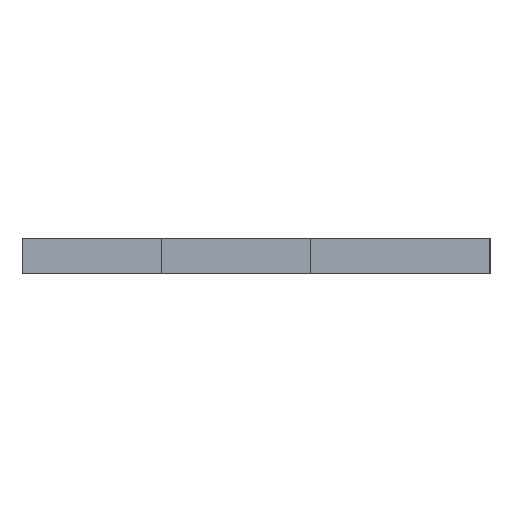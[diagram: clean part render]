
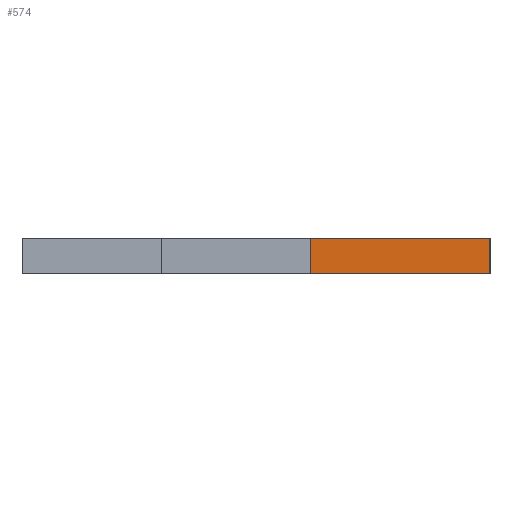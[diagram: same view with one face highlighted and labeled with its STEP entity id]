
A CAD part, left-side view. The second image highlights one B-rep face of the part: STEP entity #574.
In plain terms, the highlighted planar face has unit normal (-1, 0, 0).
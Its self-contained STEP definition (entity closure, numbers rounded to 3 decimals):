
#56 = CARTESIAN_POINT ( 'NONE',  ( -85., 0., 0. ) ) ;
#65 = FACE_OUTER_BOUND ( 'NONE', #686, .T. ) ;
#124 = CARTESIAN_POINT ( 'NONE',  ( -85., -5.225, 0. ) ) ;
#163 = EDGE_CURVE ( 'NONE', #303, #1453, #1133, .T. ) ;
#175 = VECTOR ( 'NONE', #882, 1000. ) ;
#199 = EDGE_CURVE ( 'NONE', #303, #248, #1003, .T. ) ;
#248 = VERTEX_POINT ( 'NONE', #1415 ) ;
#279 = ORIENTED_EDGE ( 'NONE', *, *, #630, .T. ) ;
#303 = VERTEX_POINT ( 'NONE', #485 ) ;
#318 = VERTEX_POINT ( 'NONE', #124 ) ;
#321 = VECTOR ( 'NONE', #640, 1000. ) ;
#339 = LINE ( 'NONE', #1380, #407 ) ;
#403 = DIRECTION ( 'NONE',  ( 0., 0., 1. ) ) ;
#407 = VECTOR ( 'NONE', #796, 1000. ) ;
#421 = CARTESIAN_POINT ( 'NONE',  ( -85., -17.8, 2.5 ) ) ;
#424 = ORIENTED_EDGE ( 'NONE', *, *, #199, .F. ) ;
#485 = CARTESIAN_POINT ( 'NONE',  ( -85., -17.8, 2.5 ) ) ;
#531 = DIRECTION ( 'NONE',  ( -1., 0., 0. ) ) ;
#574 = ADVANCED_FACE ( 'NONE', ( #65 ), #889, .T. ) ;
#630 = EDGE_CURVE ( 'NONE', #1453, #318, #339, .T. ) ;
#640 = DIRECTION ( 'NONE',  ( 0., 1., 0. ) ) ;
#663 = DIRECTION ( 'NONE',  ( 0., 0., -1. ) ) ;
#686 = EDGE_LOOP ( 'NONE', ( #1372, #424, #1358, #279 ) ) ;
#727 = AXIS2_PLACEMENT_3D ( 'NONE', #868, #531, #403 ) ;
#796 = DIRECTION ( 'NONE',  ( 0., 0., -1. ) ) ;
#867 = EDGE_CURVE ( 'NONE', #248, #318, #1109, .T. ) ;
#868 = CARTESIAN_POINT ( 'NONE',  ( -85., 0., 2.5 ) ) ;
#882 = DIRECTION ( 'NONE',  ( 0., 1., 0. ) ) ;
#889 = PLANE ( 'NONE',  #727 ) ;
#912 = VECTOR ( 'NONE', #663, 1000. ) ;
#1003 = LINE ( 'NONE', #421, #912 ) ;
#1109 = LINE ( 'NONE', #56, #321 ) ;
#1133 = LINE ( 'NONE', #1464, #175 ) ;
#1195 = CARTESIAN_POINT ( 'NONE',  ( -85., -5.225, 2.5 ) ) ;
#1358 = ORIENTED_EDGE ( 'NONE', *, *, #163, .T. ) ;
#1372 = ORIENTED_EDGE ( 'NONE', *, *, #867, .F. ) ;
#1380 = CARTESIAN_POINT ( 'NONE',  ( -85., -5.225, 2.5 ) ) ;
#1415 = CARTESIAN_POINT ( 'NONE',  ( -85., -17.8, 0. ) ) ;
#1453 = VERTEX_POINT ( 'NONE', #1195 ) ;
#1464 = CARTESIAN_POINT ( 'NONE',  ( -85., 0., 2.5 ) ) ;
